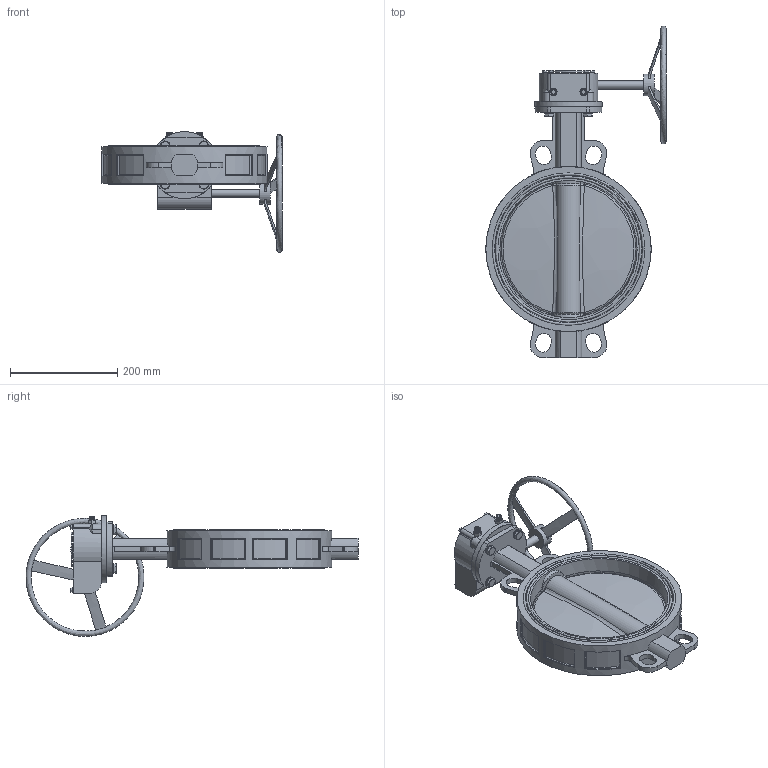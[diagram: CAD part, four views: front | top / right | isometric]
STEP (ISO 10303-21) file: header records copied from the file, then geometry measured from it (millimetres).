
FILE_DESCRIPTION (( 'STEP AP214' ), '1' );
FILE_NAME ('恦謫 勤標評概 Fig.3230-250.STEP', '2026-03-23T07:40:53', ( '' ), ( '' ), 'SwSTEP 2.0', 'SolidWorks 2024', '' );
FILE_SCHEMA (( 'AUTOMOTIVE_DESIGN' ));
Length unit declared in the file: millimetre
Products named in the file (1): 涡轮 对夹蝶阀 Fig.3230-250
Bounding box: 336 x 618.95 x 224.99 mm (x, y, z)
Surface area: 443936.6 mm2 (no closed solid volume)
Topology: 0 solids, 1 shells, 685 faces, 1768 edges, 1147 vertices
Faces by surface type: plane 336, bspline 185, cylinder 122, cone 42
Full cylindrical faces by diameter (mm): 6 x4, 10 x10, 10.9 x4, 12 x4, 15 x1, 16.9 x4, 20 x1, 40 x1, 64 x1, 83 x1, 125.02 x1, 308 x1
Entity records: 47920 total; most frequent: CARTESIAN_POINT 28003, ORIENTED_EDGE 3382, DIRECTION 2457, EDGE_CURVE 1702, VERTEX_POINT 1125, VECTOR 829, LINE 829, EDGE_LOOP 821
